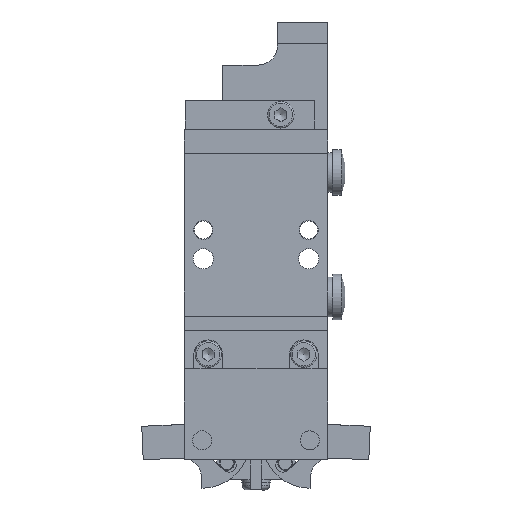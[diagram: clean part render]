
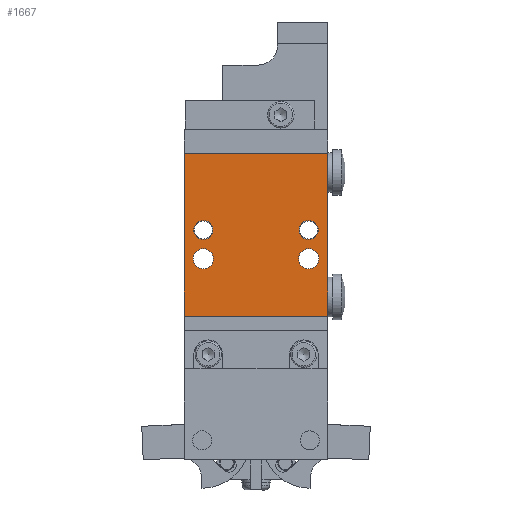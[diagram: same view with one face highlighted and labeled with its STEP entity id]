
A CAD part, front view. The second image highlights one B-rep face of the part: STEP entity #1667.
In plain terms, the highlighted planar face has unit normal (0, -1, 0).
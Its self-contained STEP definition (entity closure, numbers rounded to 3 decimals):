
#1204=CARTESIAN_POINT('',(-2.,0.,1.959));
#1205=VERTEX_POINT('',#1204);
#1206=CARTESIAN_POINT('',(-4.,0.,1.959));
#1207=DIRECTION('',(0.0,1.0,0.0));
#1208=DIRECTION('',(1.0,0.0,0.0));
#1209=AXIS2_PLACEMENT_3D('',#1206,#1207,#1208);
#1210=CIRCLE('',#1209,2.0);
#1211=EDGE_CURVE('',#1205,#1205,#1210,.T.);
#1306=CARTESIAN_POINT('',(-24.,0.,1.959));
#1307=VERTEX_POINT('',#1306);
#1308=CARTESIAN_POINT('',(-26.,0.,1.959));
#1309=DIRECTION('',(0.0,1.0,0.0));
#1310=DIRECTION('',(1.0,0.0,0.0));
#1311=AXIS2_PLACEMENT_3D('',#1308,#1309,#1310);
#1312=CIRCLE('',#1311,2.0);
#1313=EDGE_CURVE('',#1307,#1307,#1312,.T.);
#1391=CARTESIAN_POINT('',(-23.9,0.,-4.041));
#1392=VERTEX_POINT('',#1391);
#1393=CARTESIAN_POINT('',(-26.,0.,-4.041));
#1394=DIRECTION('',(0.0,1.0,0.0));
#1395=DIRECTION('',(1.0,0.0,0.0));
#1396=AXIS2_PLACEMENT_3D('',#1393,#1394,#1395);
#1397=CIRCLE('',#1396,2.1);
#1398=EDGE_CURVE('',#1392,#1392,#1397,.T.);
#1440=CARTESIAN_POINT('',(-1.9,0.,-4.041));
#1441=VERTEX_POINT('',#1440);
#1442=CARTESIAN_POINT('',(-4.,0.,-4.041));
#1443=DIRECTION('',(0.0,1.0,0.0));
#1444=DIRECTION('',(1.0,0.0,0.0));
#1445=AXIS2_PLACEMENT_3D('',#1442,#1443,#1444);
#1446=CIRCLE('',#1445,2.1);
#1447=EDGE_CURVE('',#1441,#1441,#1446,.T.);
#1521=CARTESIAN_POINT('',(0.,0.,17.959));
#1522=VERTEX_POINT('',#1521);
#1529=CARTESIAN_POINT('',(0.,0.,-16.041));
#1530=VERTEX_POINT('',#1529);
#1531=CARTESIAN_POINT('',(0.,0.,17.959));
#1532=DIRECTION('',(0.0,0.0,-1.0));
#1533=VECTOR('',#1532,34.);
#1534=LINE('',#1531,#1533);
#1535=EDGE_CURVE('',#1522,#1530,#1534,.T.);
#1603=CARTESIAN_POINT('',(-30.,0.,-16.041));
#1604=VERTEX_POINT('',#1603);
#1611=CARTESIAN_POINT('',(-30.,0.,17.959));
#1612=VERTEX_POINT('',#1611);
#1613=CARTESIAN_POINT('',(-30.,0.,-16.041));
#1614=DIRECTION('',(0.0,0.0,1.0));
#1615=VECTOR('',#1614,34.);
#1616=LINE('',#1613,#1615);
#1617=EDGE_CURVE('',#1604,#1612,#1616,.T.);
#1634=CARTESIAN_POINT('',(-15.,0.,0.959));
#1635=DIRECTION('',(0.0,1.0,0.0));
#1636=DIRECTION('',(0.0,0.0,1.0));
#1637=AXIS2_PLACEMENT_3D('',#1634,#1635,#1636);
#1638=PLANE('',#1637);
#1639=CARTESIAN_POINT('',(0.,0.,-16.041));
#1640=DIRECTION('',(-1.0,0.0,0.0));
#1641=VECTOR('',#1640,30.0);
#1642=LINE('',#1639,#1641);
#1643=EDGE_CURVE('',#1530,#1604,#1642,.T.);
#1644=ORIENTED_EDGE('',*,*,#1643,.F.);
#1645=ORIENTED_EDGE('',*,*,#1535,.F.);
#1646=CARTESIAN_POINT('',(-30.,0.,17.959));
#1647=DIRECTION('',(1.0,0.0,0.0));
#1648=VECTOR('',#1647,30.);
#1649=LINE('',#1646,#1648);
#1650=EDGE_CURVE('',#1612,#1522,#1649,.T.);
#1651=ORIENTED_EDGE('',*,*,#1650,.F.);
#1652=ORIENTED_EDGE('',*,*,#1617,.F.);
#1653=EDGE_LOOP('',(#1644,#1645,#1651,#1652));
#1654=FACE_OUTER_BOUND('',#1653,.T.);
#1655=ORIENTED_EDGE('',*,*,#1211,.T.);
#1656=EDGE_LOOP('',(#1655));
#1657=FACE_BOUND('',#1656,.T.);
#1658=ORIENTED_EDGE('',*,*,#1313,.T.);
#1659=EDGE_LOOP('',(#1658));
#1660=FACE_BOUND('',#1659,.T.);
#1661=ORIENTED_EDGE('',*,*,#1398,.T.);
#1662=EDGE_LOOP('',(#1661));
#1663=FACE_BOUND('',#1662,.T.);
#1664=ORIENTED_EDGE('',*,*,#1447,.T.);
#1665=EDGE_LOOP('',(#1664));
#1666=FACE_BOUND('',#1665,.T.);
#1667=ADVANCED_FACE('',(#1654,#1657,#1660,#1663,#1666),#1638,.F.);
